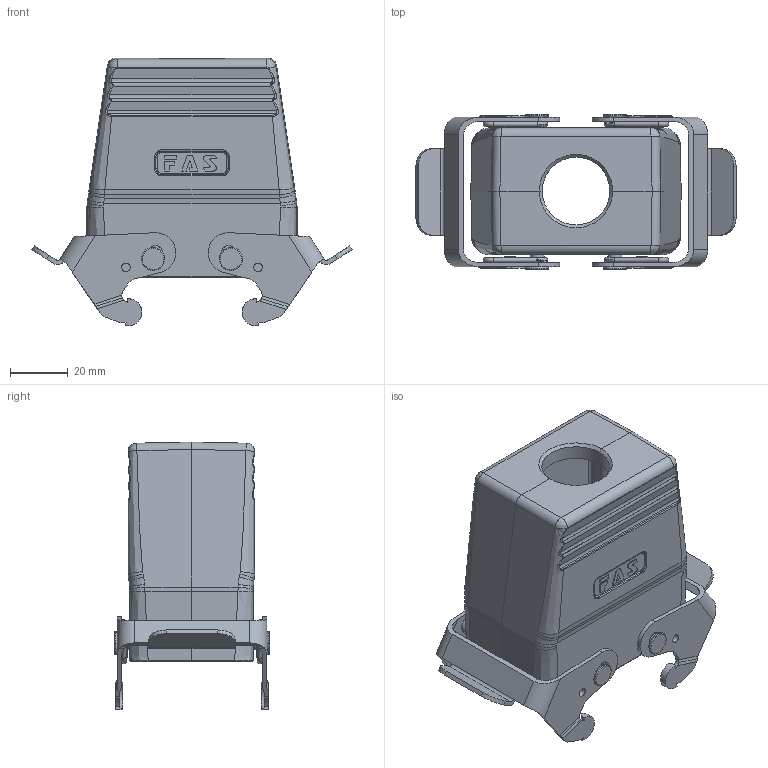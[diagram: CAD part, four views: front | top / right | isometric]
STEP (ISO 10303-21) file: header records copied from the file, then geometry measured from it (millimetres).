
FILE_DESCRIPTION (( 'STEP AP203' ), '1' );
FILE_NAME ('H10B-TGBH-M25.STEP', '2023-06-06T07:58:42', ( '' ), ( '' ), 'SwSTEP 2.0', 'SolidWorks 2016', '' );
FILE_SCHEMA (( 'CONFIG_CONTROL_DESIGN' ));
Length unit declared in the file: millimetre
Products named in the file (1): H10B-TGBH-M25
Bounding box: 111.15 x 54 x 92.89 mm (x, y, z)
Surface area: 46674.3 mm2 (no closed solid volume)
Topology: 0 solids, 1 shells, 700 faces, 1920 edges, 1238 vertices
Faces by surface type: cylinder 244, plane 242, bspline 114, torus 72, cone 24, sphere 4
Full cylindrical faces by diameter (mm): 1.8 x4, 2.95 x4, 3 x4, 4 x4, 4.8 x4, 8 x4, 23.5 x1
Entity records: 33237 total; most frequent: CARTESIAN_POINT 17648, ORIENTED_EDGE 3610, DIRECTION 2658, EDGE_CURVE 1805, VERTEX_POINT 1186, AXIS2_PLACEMENT_3D 981, EDGE_LOOP 813, FACE_OUTER_BOUND 741
